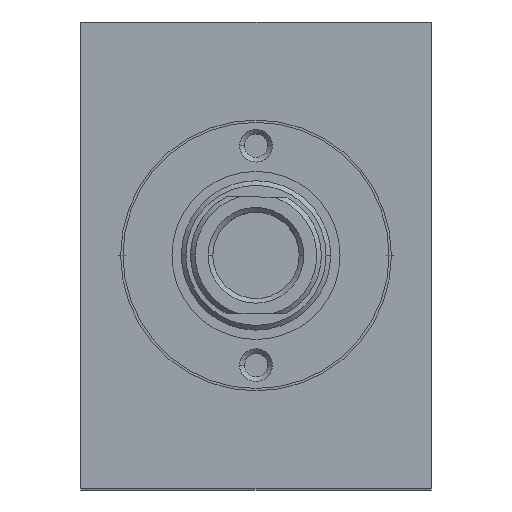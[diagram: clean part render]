
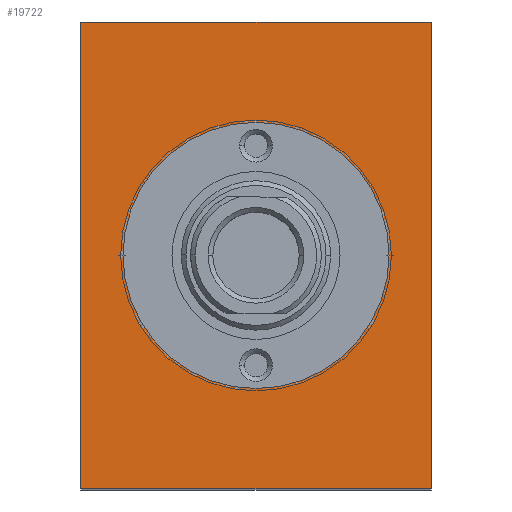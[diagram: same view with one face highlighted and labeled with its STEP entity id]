
A CAD part, top view. The second image highlights one B-rep face of the part: STEP entity #19722.
In plain terms, the highlighted planar face has unit normal (0, 0, 1).
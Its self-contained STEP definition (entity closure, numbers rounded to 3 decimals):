
#118 = CARTESIAN_POINT ( 'NONE',  ( 37.5, 50., 135. ) ) ;
#371 = DIRECTION ( 'NONE',  ( 0., 1., 0. ) ) ;
#642 = VECTOR ( 'NONE', #4511, 1000. ) ;
#760 = ORIENTED_EDGE ( 'NONE', *, *, #10345, .T. ) ;
#890 = CARTESIAN_POINT ( 'NONE',  ( 75., 100., 135. ) ) ;
#1271 = LINE ( 'NONE', #3538, #13139 ) ;
#1804 = DIRECTION ( 'NONE',  ( 0., 0., -1. ) ) ;
#1828 = PLANE ( 'NONE',  #14415 ) ;
#2692 = VERTEX_POINT ( 'NONE', #11905 ) ;
#3538 = CARTESIAN_POINT ( 'NONE',  ( 75., 0., 135. ) ) ;
#3720 = ORIENTED_EDGE ( 'NONE', *, *, #16788, .T. ) ;
#3844 = VERTEX_POINT ( 'NONE', #19924 ) ;
#4511 = DIRECTION ( 'NONE',  ( -1., 0., 0. ) ) ;
#5139 = DIRECTION ( 'NONE',  ( 0., 0., -1. ) ) ;
#5218 = DIRECTION ( 'NONE',  ( 0., 0., -1. ) ) ;
#5885 = CARTESIAN_POINT ( 'NONE',  ( 9., 50., 135. ) ) ;
#5984 = CARTESIAN_POINT ( 'NONE',  ( 0., 0., 135. ) ) ;
#6230 = EDGE_CURVE ( 'NONE', #2692, #6824, #12771, .T. ) ;
#6815 = EDGE_CURVE ( 'NONE', #6824, #3844, #17619, .T. ) ;
#6824 = VERTEX_POINT ( 'NONE', #17254 ) ;
#6883 = EDGE_CURVE ( 'NONE', #13374, #2692, #17855, .T. ) ;
#6887 = ORIENTED_EDGE ( 'NONE', *, *, #6883, .T. ) ;
#6907 = CARTESIAN_POINT ( 'NONE',  ( 37.5, 50., 135. ) ) ;
#7274 = FACE_OUTER_BOUND ( 'NONE', #10533, .T. ) ;
#7436 = CARTESIAN_POINT ( 'NONE',  ( 66., 50., 135. ) ) ;
#8556 = AXIS2_PLACEMENT_3D ( 'NONE', #118, #1804, #17878 ) ;
#8714 = CARTESIAN_POINT ( 'NONE',  ( 0., 0., 135. ) ) ;
#9477 = VECTOR ( 'NONE', #19934, 1000. ) ;
#10006 = VECTOR ( 'NONE', #15618, 1000. ) ;
#10345 = EDGE_CURVE ( 'NONE', #13421, #10483, #10402, .T. ) ;
#10402 = CIRCLE ( 'NONE', #8556, 28.5 ) ;
#10483 = VERTEX_POINT ( 'NONE', #7436 ) ;
#10533 = EDGE_LOOP ( 'NONE', ( #18296, #20811, #3720, #6887 ) ) ;
#11905 = CARTESIAN_POINT ( 'NONE',  ( 0., 100., 135. ) ) ;
#12771 = LINE ( 'NONE', #8714, #9477 ) ;
#12826 = CIRCLE ( 'NONE', #20659, 28.5 ) ;
#13139 = VECTOR ( 'NONE', #371, 1000. ) ;
#13374 = VERTEX_POINT ( 'NONE', #890 ) ;
#13421 = VERTEX_POINT ( 'NONE', #5885 ) ;
#14226 = EDGE_LOOP ( 'NONE', ( #20289, #760 ) ) ;
#14415 = AXIS2_PLACEMENT_3D ( 'NONE', #14775, #5139, #16382 ) ;
#14775 = CARTESIAN_POINT ( 'NONE',  ( 0., 0., 135. ) ) ;
#15618 = DIRECTION ( 'NONE',  ( 1., 0., 0. ) ) ;
#15895 = FACE_BOUND ( 'NONE', #14226, .T. ) ;
#16382 = DIRECTION ( 'NONE',  ( -1., 0., 0. ) ) ;
#16788 = EDGE_CURVE ( 'NONE', #3844, #13374, #1271, .T. ) ;
#17254 = CARTESIAN_POINT ( 'NONE',  ( 0., 0., 135. ) ) ;
#17543 = CARTESIAN_POINT ( 'NONE',  ( 0., 100., 135. ) ) ;
#17619 = LINE ( 'NONE', #5984, #10006 ) ;
#17855 = LINE ( 'NONE', #17543, #642 ) ;
#17878 = DIRECTION ( 'NONE',  ( -1., 0., 0. ) ) ;
#18296 = ORIENTED_EDGE ( 'NONE', *, *, #6230, .T. ) ;
#19722 = ADVANCED_FACE ( 'NONE', ( #15895, #7274 ), #1828, .F. ) ;
#19890 = DIRECTION ( 'NONE',  ( -1., 0., 0. ) ) ;
#19924 = CARTESIAN_POINT ( 'NONE',  ( 75., 0., 135. ) ) ;
#19934 = DIRECTION ( 'NONE',  ( 0., -1., 0. ) ) ;
#20289 = ORIENTED_EDGE ( 'NONE', *, *, #20382, .T. ) ;
#20382 = EDGE_CURVE ( 'NONE', #10483, #13421, #12826, .T. ) ;
#20659 = AXIS2_PLACEMENT_3D ( 'NONE', #6907, #5218, #19890 ) ;
#20811 = ORIENTED_EDGE ( 'NONE', *, *, #6815, .T. ) ;
